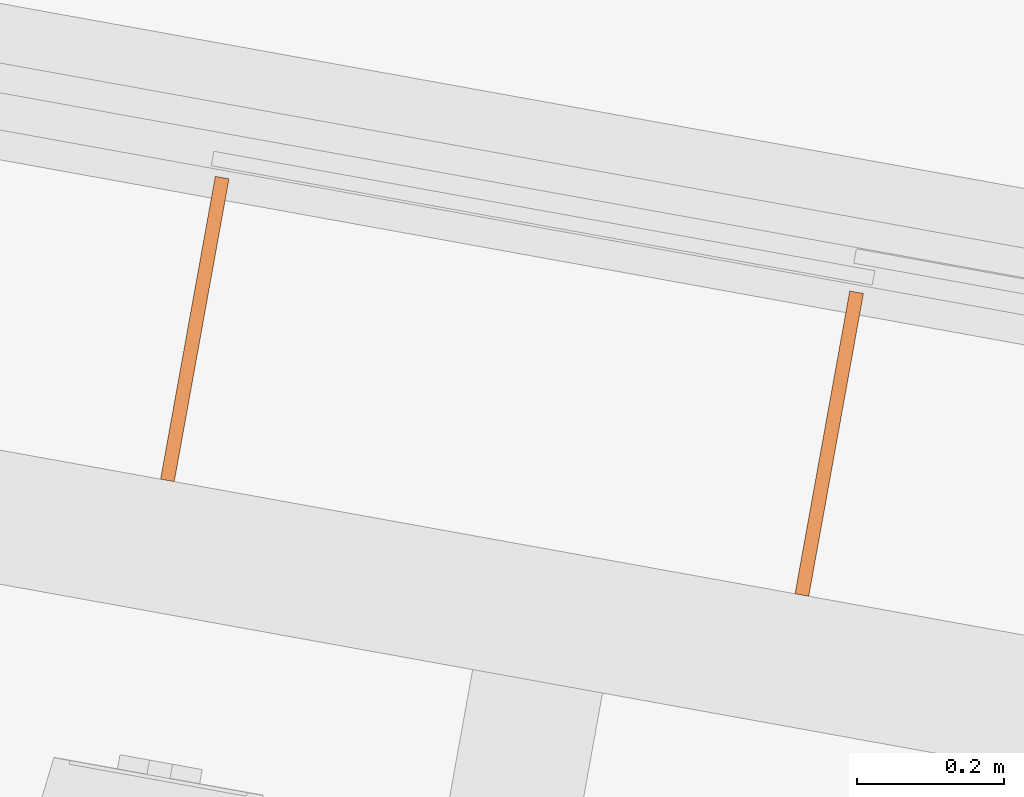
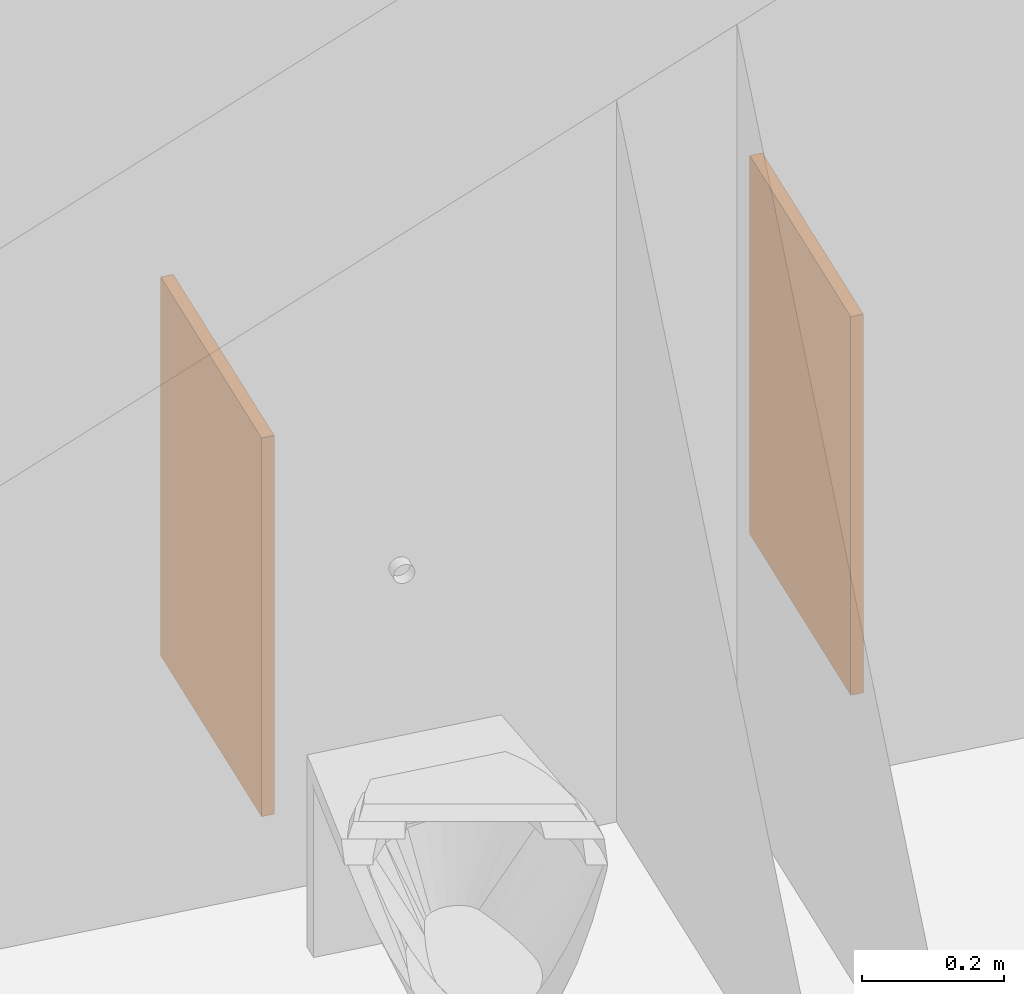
# One storey, part 52 of 79: 2 proxies.
"""IFC2X3 building model written with IfcOpenShell, lengths in metres."""

from ifc_helpers import new_model, entity, si_unit, converted_unit, derived_unit, money_unit, direction, frame, origin_with_axes, place, context, subcontext, project, spatial, polyline, outline, extrude, material, type_object, element, save


model = new_model("IFC2X3")

# Units and contexts
model_context = context("Model", 3, precision=1e-05, world=origin_with_axes(), true_north=direction((0.0, 1.0)))
body_context = subcontext(model_context, "Body", "Model", "MODEL_VIEW")
ifc_project = project(units=[si_unit("LENGTHUNIT", "METRE"), si_unit("AREAUNIT", "SQUARE_METRE"), si_unit("VOLUMEUNIT", "CUBIC_METRE"), converted_unit("PLANEANGLEUNIT", "DEGREE", entity("IfcPlaneAngleMeasure", 0.0174532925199), si_unit("PLANEANGLEUNIT", "RADIAN"), dimensions=[0, 0, 0, 0, 0, 0, 0]), money_unit("CHF"), converted_unit("TIMEUNIT", "Year", entity("IfcTimeMeasure", 31556926.0), si_unit("TIMEUNIT", "SECOND"), dimensions=[0, 0, 1, 0, 0, 0, 0]), si_unit("MASSUNIT", "GRAM", prefix="KILO"), si_unit("THERMODYNAMICTEMPERATUREUNIT", "DEGREE_CELSIUS"), si_unit("LUMINOUSINTENSITYUNIT", "LUMEN"), si_unit("ENERGYUNIT", "JOULE", prefix="MEGA"), derived_unit("THERMALCONDUCTANCEUNIT", [(si_unit("POWERUNIT", "WATT"), 1), (si_unit("LENGTHUNIT", "METRE"), -1), (si_unit("THERMODYNAMICTEMPERATUREUNIT", "KELVIN"), -1)]), derived_unit("SPECIFICHEATCAPACITYUNIT", [(si_unit("ENERGYUNIT", "JOULE"), 1), (si_unit("MASSUNIT", "GRAM", prefix="KILO"), -1), (si_unit("THERMODYNAMICTEMPERATUREUNIT", "KELVIN"), -1)]), derived_unit("MASSDENSITYUNIT", [(si_unit("MASSUNIT", "GRAM", prefix="KILO"), 1), (si_unit("VOLUMEUNIT", "CUBIC_METRE"), -1)])], contexts=[model_context])

# Site, building, storey
site_placement = place(None, frame((0.0, 0.0, 0.0), z_axis=(0.0, 0.0, 1.0), x_axis=(-0.177771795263, -0.984071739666, 0.0)))
site = spatial("IfcSite", under=ifc_project, at=site_placement, Name="Site", CompositionType="ELEMENT")
building_placement = place(site_placement, origin_with_axes())
building = spatial("IfcBuilding", under=site, at=building_placement, Name="Bâtiment", CompositionType="ELEMENT")
storey_placement = place(building_placement, origin_with_axes())
storey = spatial("IfcBuildingStorey", under=building, at=storey_placement, Name="RDC", CompositionType="ELEMENT", Elevation=0.0)

# Proxies
ifc_material = material(Name="_panneau mélaminé")
building_element_proxy_type = type_object("IfcBuildingElementProxyType", Name="_panneau mélaminé 19", PredefinedType="NOTDEFINED")
for number, where, z_axis, x_axis, name in (
    (1, (137.414841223, -152.903049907, 0.0), (0.0, 0.0, 1.0), (1.0, 0.0, 0.0), "raidiseur-sous-tableau"),
    (2, (137.414841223, -152.023049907, 0.0), (0.0, 0.0, 1.0), (1.0, 0.0, 0.0), "raidiseur-sous-tableau"),
):
    element("IfcBuildingElementProxy", number, at=place(storey_placement, frame(where, z_axis=z_axis, x_axis=x_axis)), inside=storey, type_object=building_element_proxy_type, material=ifc_material, Name=name, context=body_context, shape_type="SweptSolid", body=[
        extrude(outline(polyline([(0.0, -0.0095), (0.42, -0.0095), (0.42, 0.0095), (0.0, 0.0095), (0.0, -0.0095)])), origin_with_axes(), (0.0, 0.0, 1.0), 0.65),
    ])

save(model, "model.ifc")
